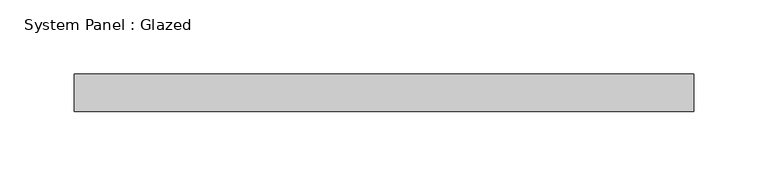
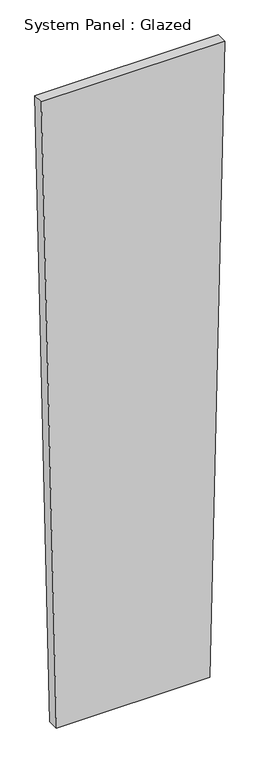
"""IFC4 building model written with IfcOpenShell, lengths in millimetres: plate geometry, System Panel : Glazed."""

from ifc_helpers import new_model, si_unit, frame, origin, place, context, project, spatial, polyline, outline, extrude, source, transform, mapped, element, save


def system_panel_glazed_d5d8f7c1(model_context):
    return source(origin(), model_context, "Body", "SweptSolid", [
        extrude(outline(polyline([(0.0, -174.8840644), (0.0, 174.8840644), (1523.6121076, 209.2664077), (1523.6121076, -209.2664077), (0.0, -174.8840644)])), frame((0.0, 19.05, 0.0), z_axis=(0.0, 1.0, 0.0), x_axis=(0.0, 0.0, 1.0)), (0.0, 0.0, 1.0), 25.4),
    ])


if __name__ == "__main__":
    model = new_model("IFC4")
    model_context = context("Model", 3, world=origin())
    ifc_project = project(units=[si_unit("LENGTHUNIT", "METRE", prefix="MILLI")], contexts=[model_context])
    site = spatial("IfcSite", under=ifc_project)
    building = spatial("IfcBuilding", under=site)
    placement = place(None, origin())
    system_panel_glazed_shape = system_panel_glazed_d5d8f7c1(model_context)
    element("IfcPlate", 1, ObjectType="System Panel : Glazed", at=placement, inside=building, context=model_context, shape_type="MappedRepresentation", body=[
        mapped(system_panel_glazed_shape, transform((0.0, 0.0, 0.0), x_axis=(1.0, 0.0, 0.0), y_axis=(0.0, 1.0, 0.0), z_axis=(0.0, 0.0, 1.0))),
    ])
    save(model, "model.ifc")
